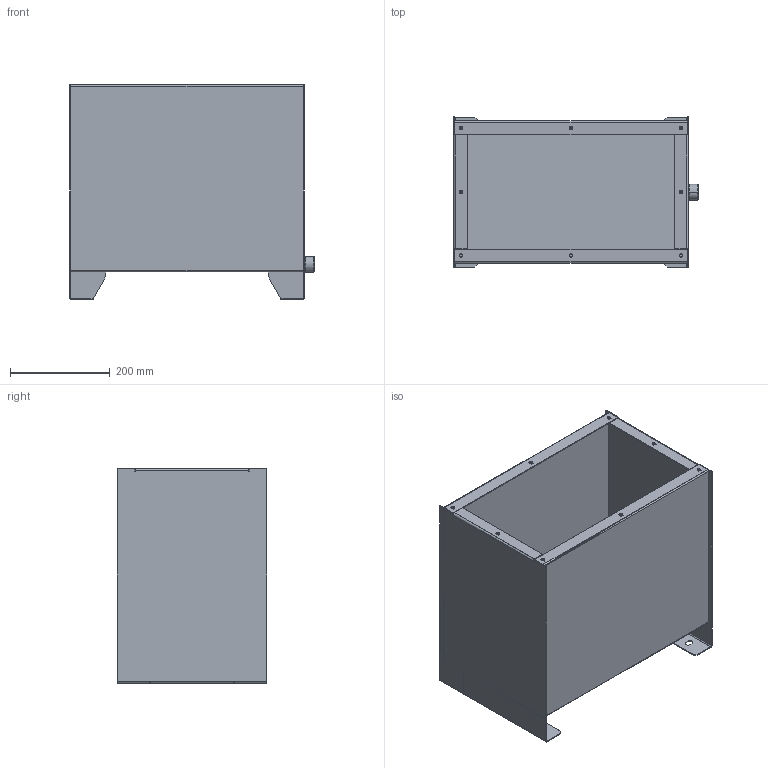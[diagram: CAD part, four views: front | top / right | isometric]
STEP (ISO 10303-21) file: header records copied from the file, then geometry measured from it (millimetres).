
FILE_DESCRIPTION (( 'STEP AP203' ), '1' );
FILE_NAME ('CFP35.STEP', '2016-11-08T09:21:00', ( '' ), ( '' ), 'SwSTEP 2.0', 'SolidWorks 2016', '' );
FILE_SCHEMA (( 'CONFIG_CONTROL_DESIGN' ));
Length unit declared in the file: millimetre
Products named in the file (1): CFP35
Bounding box: 490 x 300 x 430 mm (x, y, z)
Volume: 1631993.8 mm3; surface area: 1641505.3 mm2
Topology: 16 solids, 16 shells, 414 faces, 918 edges, 536 vertices
Faces by surface type: plane 340, cylinder 70, cone 4
Entity records: 11157 total; most frequent: DIRECTION 1892, CARTESIAN_POINT 1869, ORIENTED_EDGE 1836, EDGE_CURVE 918, LINE 774, VECTOR 774, AXIS2_PLACEMENT_3D 559, VERTEX_POINT 536
